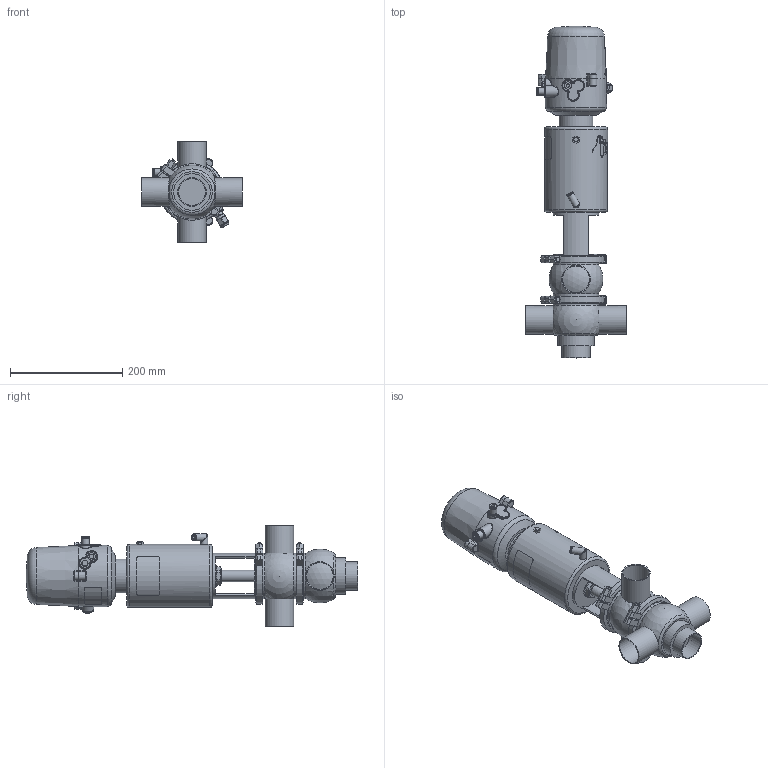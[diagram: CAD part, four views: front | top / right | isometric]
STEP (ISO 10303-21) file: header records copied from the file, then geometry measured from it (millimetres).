
FILE_DESCRIPTION (( 'STEP AP214' ), '1' );
FILE_NAME ('INNOVA K G W OD 2 T2 AS NC & C-TOP S_10.240.16.0082.STEP', '2024-08-06T09:05:45', ( '' ), ( '' ), 'SwSTEP 2.0', 'SolidWorks 2023', '' );
FILE_SCHEMA (( 'AUTOMOTIVE_DESIGN' ));
Length unit declared in the file: millimetre
Products named in the file (8): 10.240.15.0001_DN 050; 10.240.15.0010_DN 050; 10.240.15.0003_OD 2"; 10.240.15.0017_Estàndard; INNOVA K G W OD 2 T2 AS NC & C-TOP S_10.240.16.0082; 10.240.15.0014_T2 AS P0; 10.240.15.0007_OD 2"; 10.426.15.0001_C-TOP S - 1 EV
Assembly tree (8 placements, depth 2):
  INNOVA K G W OD 2 T2 AS NC & C-TOP S_10.240.16.0082
    10.240.15.0007_OD 2"
    10.240.15.0003_OD 2"
    10.240.15.0010_DN 050
    10.240.15.0014_T2 AS P0
    10.240.15.0017_Estàndard
    10.426.15.0001_C-TOP S - 1 EV
    10.240.15.0001_DN 050  x2
Bounding box: 180 x 592.25 x 180 mm (x, y, z)
Volume: 4126048.3 mm3; surface area: 381707.5 mm2
Topology: 8 solids, 8 shells, 1180 faces, 2846 edges, 1895 vertices
Faces by surface type: plane 412, cylinder 360, cone 201, bspline 160, torus 37, sphere 10
Full cylindrical faces by diameter (mm): 0.371 x17, 0.512 x16, 0.658 x16, 0.795 x16, 0.94 x15, 1.098 x15, 1.241 x13, 1.382 x13, 1.523 x11, 1.669 x10, 2.201 x1, 4 x2, 5.5 x2, 6 x2, 6.15 x1, 8 x6, 8.5 x1, 10 x1, 10.5 x1, 11 x2, 12.5 x3, 13 x2, 13.5 x2, 16 x1, 17 x3, 20 x3, 20.5 x1, 22 x2, 31 x1, 34.5 x3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
Entity records: 58224 total; most frequent: CARTESIAN_POINT 27881, ORIENTED_EDGE 4530, DIRECTION 3681, EDGE_CURVE 2265, VERTEX_POINT 1614, EDGE_LOOP 1585, AXIS2_PLACEMENT_3D 1512, FACE_OUTER_BOUND 1343
